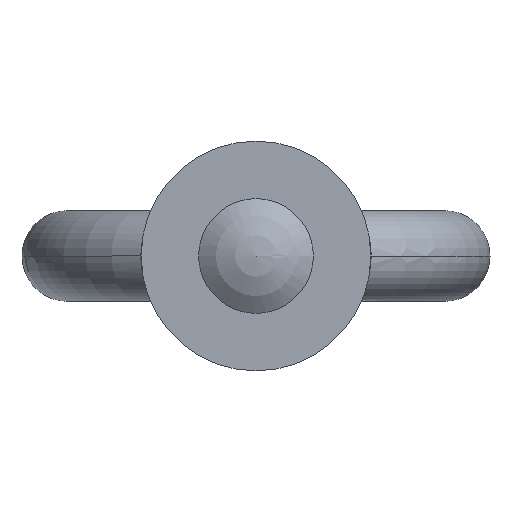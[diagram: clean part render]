
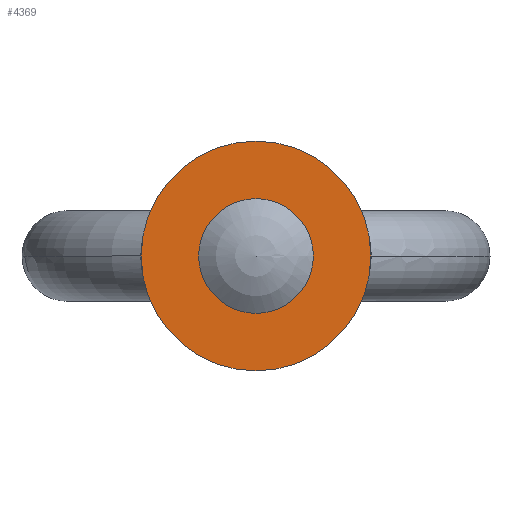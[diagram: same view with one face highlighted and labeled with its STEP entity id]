
A CAD part, front view. The second image highlights one B-rep face of the part: STEP entity #4369.
In plain terms, the highlighted planar face has unit normal (0, -1, 0).
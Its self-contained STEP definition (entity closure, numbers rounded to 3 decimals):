
#737 = CIRCLE ( 'NONE', #738, 3.5 ) ;
#738 = AXIS2_PLACEMENT_3D ( 'NONE', #739, #740, #741 ) ;
#739 = CARTESIAN_POINT ( 'NONE',  ( 0., -17., 0. ) ) ;
#740 = DIRECTION ( 'NONE',  ( 0., 1., 0. ) ) ;
#741 = DIRECTION ( 'NONE',  ( 0., 0., -1. ) ) ;
#3096 = VERTEX_POINT ( 'NONE', #4087 ) ;
#3129 = CIRCLE ( 'NONE', #3130, 8. ) ;
#3130 = AXIS2_PLACEMENT_3D ( 'NONE', #3131, #3132, #3133 ) ;
#3131 = CARTESIAN_POINT ( 'NONE',  ( 0., -17., 0. ) ) ;
#3132 = DIRECTION ( 'NONE',  ( 0., 1., 0. ) ) ;
#3133 = DIRECTION ( 'NONE',  ( 0., 0., 1. ) ) ;
#3295 = EDGE_CURVE ( 'NONE', #4075, #3096, #4559, .T. ) ;
#4041 = CARTESIAN_POINT ( 'NONE',  ( 0., -17., 8. ) ) ;
#4068 = CARTESIAN_POINT ( 'NONE',  ( 0., -17., 3.5 ) ) ;
#4075 = VERTEX_POINT ( 'NONE', #4041 ) ;
#4087 = CARTESIAN_POINT ( 'NONE',  ( 0., -17., -8. ) ) ;
#4242 = EDGE_CURVE ( 'NONE', #4259, #4252, #737, .T. ) ;
#4252 = VERTEX_POINT ( 'NONE', #4068 ) ;
#4259 = VERTEX_POINT ( 'NONE', #4602 ) ;
#4313 = ORIENTED_EDGE ( 'NONE', *, *, #3295, .F. ) ;
#4323 = ORIENTED_EDGE ( 'NONE', *, *, #4376, .F. ) ;
#4335 = EDGE_LOOP ( 'NONE', ( #4323, #4313 ) ) ;
#4341 = EDGE_CURVE ( 'NONE', #4252, #4259, #4476, .T. ) ;
#4348 = ORIENTED_EDGE ( 'NONE', *, *, #4341, .T. ) ;
#4357 = ORIENTED_EDGE ( 'NONE', *, *, #4242, .T. ) ;
#4367 = EDGE_LOOP ( 'NONE', ( #4357, #4348 ) ) ;
#4369 = ADVANCED_FACE ( 'NONE', ( #5940, #5943 ), #5944, .T. ) ;
#4376 = EDGE_CURVE ( 'NONE', #3096, #4075, #3129, .T. ) ;
#4476 = CIRCLE ( 'NONE', #4477, 3.5 ) ;
#4477 = AXIS2_PLACEMENT_3D ( 'NONE', #4478, #4479, #4480 ) ;
#4478 = CARTESIAN_POINT ( 'NONE',  ( 0., -17., 0. ) ) ;
#4479 = DIRECTION ( 'NONE',  ( 0., 1., 0. ) ) ;
#4480 = DIRECTION ( 'NONE',  ( 0., 0., -1. ) ) ;
#4559 = CIRCLE ( 'NONE', #4560, 8. ) ;
#4560 = AXIS2_PLACEMENT_3D ( 'NONE', #4561, #4562, #4563 ) ;
#4561 = CARTESIAN_POINT ( 'NONE',  ( 0., -17., 0. ) ) ;
#4562 = DIRECTION ( 'NONE',  ( 0., 1., 0. ) ) ;
#4563 = DIRECTION ( 'NONE',  ( 0., 0., 1. ) ) ;
#4602 = CARTESIAN_POINT ( 'NONE',  ( 0., -17., -3.5 ) ) ;
#5940 = FACE_BOUND ( 'NONE', #4367, .T. ) ;
#5943 = FACE_OUTER_BOUND ( 'NONE', #4335, .T. ) ;
#5944 = PLANE ( 'NONE',  #5945 ) ;
#5945 = AXIS2_PLACEMENT_3D ( 'NONE', #5946, #5947, #5948 ) ;
#5946 = CARTESIAN_POINT ( 'NONE',  ( -8., -17., 0. ) ) ;
#5947 = DIRECTION ( 'NONE',  ( 0., -1., 0. ) ) ;
#5948 = DIRECTION ( 'NONE',  ( 0., 0., -1. ) ) ;
